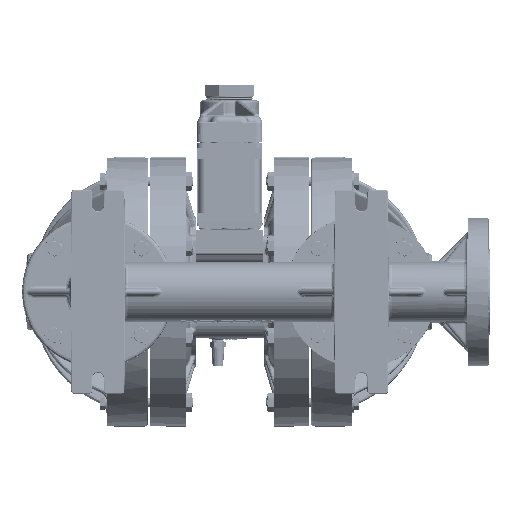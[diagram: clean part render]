
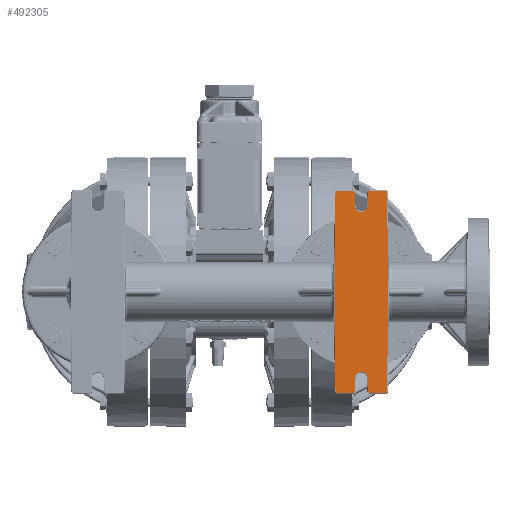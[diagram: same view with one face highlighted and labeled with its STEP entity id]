
A CAD part, front view. The second image highlights one B-rep face of the part: STEP entity #492305.
In plain terms, the highlighted planar face has unit normal (0, -1, 0).
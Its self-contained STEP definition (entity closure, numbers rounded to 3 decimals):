
#64425=DIRECTION('',(-0.009,0.,-1.));
#64426=VECTOR('',#64425,3.976);
#64427=CARTESIAN_POINT('',(4.244,-12.956,3.976));
#64428=LINE('',#64427,#64426);
#64459=DIRECTION('',(1.,0.,0.));
#64460=VECTOR('',#64459,0.606);
#64461=CARTESIAN_POINT('',(4.324,-12.956,-4.055));
#64462=LINE('',#64461,#64460);
#64472=CARTESIAN_POINT('',(4.931,-12.956,-3.975));
#64473=DIRECTION('',(0.,-1.,0.));
#64474=DIRECTION('',(0.,0.,-1.));
#64475=AXIS2_PLACEMENT_3D('',#64472,#64473,#64474);
#64487=DIRECTION('',(0.009,0.,1.));
#64488=VECTOR('',#64487,0.506);
#64489=CARTESIAN_POINT('',(5.011,-12.956,-3.976));
#64490=LINE('',#64489,#64488);
#64521=CARTESIAN_POINT('',(5.28,-12.956,-3.47));
#64522=DIRECTION('',(0.,1.,0.));
#64523=DIRECTION('',(-1.,0.,0.001));
#64524=AXIS2_PLACEMENT_3D('',#64521,#64522,#64523);
#64531=DIRECTION('',(0.009,0.,-1.));
#64532=VECTOR('',#64531,0.506);
#64533=CARTESIAN_POINT('',(5.544,-12.956,-3.47));
#64534=LINE('',#64533,#64532);
#64560=CARTESIAN_POINT('',(5.628,-12.956,-3.975));
#64561=DIRECTION('',(0.,-1.,0.));
#64562=DIRECTION('',(-1.,0.,-0.009));
#64563=AXIS2_PLACEMENT_3D('',#64560,#64561,#64562);
#64575=DIRECTION('',(1.,0.,0.));
#64576=VECTOR('',#64575,0.606);
#64577=CARTESIAN_POINT('',(5.628,-12.956,-4.055));
#64578=LINE('',#64577,#64576);
#64588=CARTESIAN_POINT('',(6.235,-12.956,-3.975));
#64589=DIRECTION('',(0.,-1.,0.));
#64590=DIRECTION('',(0.,0.,-1.));
#64591=AXIS2_PLACEMENT_3D('',#64588,#64589,#64590);
#64603=DIRECTION('',(0.009,0.,1.));
#64604=VECTOR('',#64603,3.976);
#64605=CARTESIAN_POINT('',(6.315,-12.956,-3.976));
#64606=LINE('',#64605,#64604);
#64616=DIRECTION('',(-0.009,0.,1.));
#64617=VECTOR('',#64616,3.976);
#64618=CARTESIAN_POINT('',(6.349,-12.956,0.));
#64619=LINE('',#64618,#64617);
#64645=CARTESIAN_POINT('',(6.235,-12.956,3.975));
#64646=DIRECTION('',(0.,-1.,0.));
#64647=DIRECTION('',(1.,0.,0.009));
#64648=AXIS2_PLACEMENT_3D('',#64645,#64646,#64647);
#64660=DIRECTION('',(-1.,0.,0.));
#64661=VECTOR('',#64660,0.606);
#64662=CARTESIAN_POINT('',(6.235,-12.956,4.055));
#64663=LINE('',#64662,#64661);
#64673=CARTESIAN_POINT('',(5.628,-12.956,3.975));
#64674=DIRECTION('',(0.,-1.,0.));
#64675=DIRECTION('',(0.,0.,1.));
#64676=AXIS2_PLACEMENT_3D('',#64673,#64674,#64675);
#64688=DIRECTION('',(-0.009,0.,-1.));
#64689=VECTOR('',#64688,0.506);
#64690=CARTESIAN_POINT('',(5.548,-12.956,3.976));
#64691=LINE('',#64690,#64689);
#64722=CARTESIAN_POINT('',(5.28,-12.956,3.47));
#64723=DIRECTION('',(0.,1.,0.));
#64724=DIRECTION('',(1.,0.,-0.001));
#64725=AXIS2_PLACEMENT_3D('',#64722,#64723,#64724);
#64732=DIRECTION('',(-0.009,0.,1.));
#64733=VECTOR('',#64732,0.506);
#64734=CARTESIAN_POINT('',(5.015,-12.956,3.47));
#64735=LINE('',#64734,#64733);
#64761=CARTESIAN_POINT('',(4.931,-12.956,3.975));
#64762=DIRECTION('',(0.,-1.,0.));
#64763=DIRECTION('',(1.,0.,0.009));
#64764=AXIS2_PLACEMENT_3D('',#64761,#64762,#64763);
#64776=DIRECTION('',(-1.,0.,0.));
#64777=VECTOR('',#64776,0.606);
#64778=CARTESIAN_POINT('',(4.931,-12.956,4.055));
#64779=LINE('',#64778,#64777);
#64789=CARTESIAN_POINT('',(4.324,-12.956,3.975));
#64790=DIRECTION('',(0.,-1.,0.));
#64791=DIRECTION('',(0.,0.,1.));
#64792=AXIS2_PLACEMENT_3D('',#64789,#64790,#64791);
#67707=CARTESIAN_POINT('',(4.324,-12.956,-3.975));
#67708=DIRECTION('',(0.,-1.,0.));
#67709=DIRECTION('',(-1.,0.,-0.009));
#67710=AXIS2_PLACEMENT_3D('',#67707,#67708,#67709);
#67722=DIRECTION('',(0.009,0.,-1.));
#67723=VECTOR('',#67722,3.976);
#67724=CARTESIAN_POINT('',(4.21,-12.956,0.));
#67725=LINE('',#67724,#67723);
#397646=CARTESIAN_POINT('',(4.324,-12.956,-4.055));
#397647=CARTESIAN_POINT('',(4.931,-12.956,-4.055));
#397648=VERTEX_POINT('',#397646);
#397649=VERTEX_POINT('',#397647);
#397654=CARTESIAN_POINT('',(5.544,-12.956,-3.47));
#397655=CARTESIAN_POINT('',(5.548,-12.956,-3.976));
#397656=VERTEX_POINT('',#397654);
#397657=VERTEX_POINT('',#397655);
#397662=CARTESIAN_POINT('',(5.015,-12.956,-3.47));
#397663=VERTEX_POINT('',#397662);
#397666=CARTESIAN_POINT('',(5.011,-12.956,-3.976));
#397667=VERTEX_POINT('',#397666);
#397670=CARTESIAN_POINT('',(5.628,-12.956,-4.055));
#397671=CARTESIAN_POINT('',(6.235,-12.956,-4.055));
#397672=VERTEX_POINT('',#397670);
#397673=VERTEX_POINT('',#397671);
#397717=CARTESIAN_POINT('',(4.21,-12.956,0.));
#397718=CARTESIAN_POINT('',(4.244,-12.956,-3.976));
#397719=VERTEX_POINT('',#397717);
#397720=VERTEX_POINT('',#397718);
#397725=CARTESIAN_POINT('',(4.244,-12.956,3.976));
#397726=VERTEX_POINT('',#397725);
#397753=CARTESIAN_POINT('',(5.548,-12.956,3.976));
#397754=CARTESIAN_POINT('',(5.544,-12.956,3.47));
#397755=VERTEX_POINT('',#397753);
#397756=VERTEX_POINT('',#397754);
#397761=CARTESIAN_POINT('',(5.015,-12.956,3.47));
#397762=CARTESIAN_POINT('',(5.011,-12.956,3.976));
#397763=VERTEX_POINT('',#397761);
#397764=VERTEX_POINT('',#397762);
#397769=CARTESIAN_POINT('',(6.235,-12.956,4.055));
#397770=CARTESIAN_POINT('',(5.628,-12.956,4.055));
#397771=VERTEX_POINT('',#397769);
#397772=VERTEX_POINT('',#397770);
#397777=CARTESIAN_POINT('',(4.931,-12.956,4.055));
#397778=CARTESIAN_POINT('',(4.324,-12.956,4.055));
#397779=VERTEX_POINT('',#397777);
#397780=VERTEX_POINT('',#397778);
#397802=CARTESIAN_POINT('',(6.349,-12.956,0.));
#397803=CARTESIAN_POINT('',(6.315,-12.956,3.976));
#397804=VERTEX_POINT('',#397802);
#397805=VERTEX_POINT('',#397803);
#397810=CARTESIAN_POINT('',(6.315,-12.956,-3.976));
#397811=VERTEX_POINT('',#397810);
#492255=CARTESIAN_POINT('',(0.,-12.956,0.));
#492256=DIRECTION('',(0.,-1.,0.));
#492257=DIRECTION('',(1.,0.,0.));
#492258=AXIS2_PLACEMENT_3D('',#492255,#492256,#492257);
#492259=PLANE('',#492258);
#492261=ORIENTED_EDGE('',*,*,#492260,.F.);
#492263=ORIENTED_EDGE('',*,*,#492262,.F.);
#492265=ORIENTED_EDGE('',*,*,#492264,.F.);
#492266=ORIENTED_EDGE('',*,*,#492245,.F.);
#492268=ORIENTED_EDGE('',*,*,#492267,.F.);
#492270=ORIENTED_EDGE('',*,*,#492269,.F.);
#492272=ORIENTED_EDGE('',*,*,#492271,.F.);
#492274=ORIENTED_EDGE('',*,*,#492273,.F.);
#492276=ORIENTED_EDGE('',*,*,#492275,.F.);
#492278=ORIENTED_EDGE('',*,*,#492277,.F.);
#492280=ORIENTED_EDGE('',*,*,#492279,.F.);
#492282=ORIENTED_EDGE('',*,*,#492281,.F.);
#492284=ORIENTED_EDGE('',*,*,#492283,.F.);
#492286=ORIENTED_EDGE('',*,*,#492285,.F.);
#492288=ORIENTED_EDGE('',*,*,#492287,.F.);
#492290=ORIENTED_EDGE('',*,*,#492289,.F.);
#492292=ORIENTED_EDGE('',*,*,#492291,.F.);
#492294=ORIENTED_EDGE('',*,*,#492293,.F.);
#492296=ORIENTED_EDGE('',*,*,#492295,.F.);
#492298=ORIENTED_EDGE('',*,*,#492297,.F.);
#492300=ORIENTED_EDGE('',*,*,#492299,.F.);
#492302=ORIENTED_EDGE('',*,*,#492301,.F.);
#492303=EDGE_LOOP('',(#492261,#492263,#492265,#492266,#492268,#492270,#492272,
#492274,#492276,#492278,#492280,#492282,#492284,#492286,#492288,#492290,#492292,
#492294,#492296,#492298,#492300,#492302));
#492304=FACE_OUTER_BOUND('',#492303,.F.);
#64476=CIRCLE('',#64475,0.08);
#64525=CIRCLE('',#64524,0.265);
#64564=CIRCLE('',#64563,0.08);
#64592=CIRCLE('',#64591,0.08);
#64649=CIRCLE('',#64648,0.08);
#64677=CIRCLE('',#64676,0.08);
#64726=CIRCLE('',#64725,0.265);
#64765=CIRCLE('',#64764,0.08);
#64793=CIRCLE('',#64792,0.08);
#67711=CIRCLE('',#67710,0.08);
#492245=EDGE_CURVE('',#397726,#397719,#64428,.T.);
#492260=EDGE_CURVE('',#397648,#397649,#64462,.T.);
#492262=EDGE_CURVE('',#397720,#397648,#67711,.T.);
#492264=EDGE_CURVE('',#397719,#397720,#67725,.T.);
#492267=EDGE_CURVE('',#397780,#397726,#64793,.T.);
#492269=EDGE_CURVE('',#397779,#397780,#64779,.T.);
#492271=EDGE_CURVE('',#397764,#397779,#64765,.T.);
#492273=EDGE_CURVE('',#397763,#397764,#64735,.T.);
#492275=EDGE_CURVE('',#397756,#397763,#64726,.T.);
#492277=EDGE_CURVE('',#397755,#397756,#64691,.T.);
#492279=EDGE_CURVE('',#397772,#397755,#64677,.T.);
#492281=EDGE_CURVE('',#397771,#397772,#64663,.T.);
#492283=EDGE_CURVE('',#397805,#397771,#64649,.T.);
#492285=EDGE_CURVE('',#397804,#397805,#64619,.T.);
#492287=EDGE_CURVE('',#397811,#397804,#64606,.T.);
#492289=EDGE_CURVE('',#397673,#397811,#64592,.T.);
#492291=EDGE_CURVE('',#397672,#397673,#64578,.T.);
#492293=EDGE_CURVE('',#397657,#397672,#64564,.T.);
#492295=EDGE_CURVE('',#397656,#397657,#64534,.T.);
#492297=EDGE_CURVE('',#397663,#397656,#64525,.T.);
#492299=EDGE_CURVE('',#397667,#397663,#64490,.T.);
#492301=EDGE_CURVE('',#397649,#397667,#64476,.T.);
#492305=ADVANCED_FACE('',(#492304),#492259,.T.);
